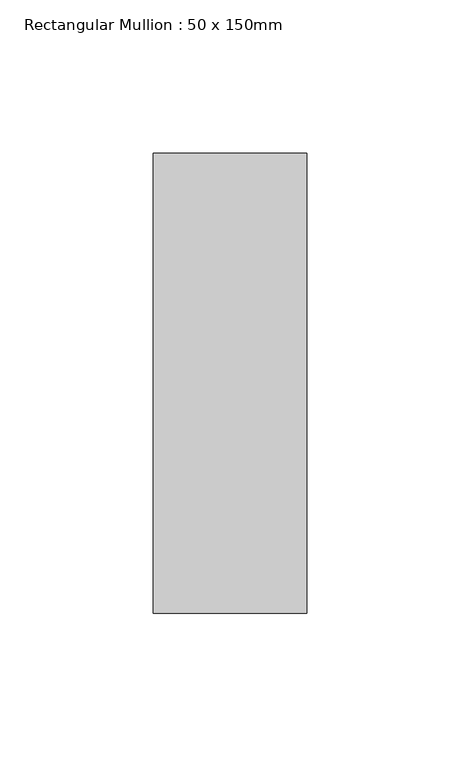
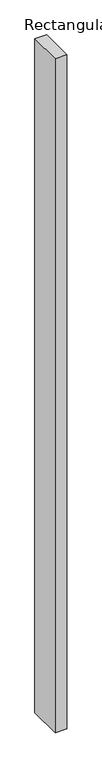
"""IFC4 building model written with IfcOpenShell, lengths in millimetres: member geometry, Rectangular Mullion : 50 x 150mm."""

from ifc_helpers import new_model, si_unit, frame, origin, place, context, project, spatial, polyline, outline, extrude, source, transform, mapped, element, save


def rectangular_mullion_50_x_150mm_2f4e9f07(model_context):
    return source(origin(), model_context, "Body", "SweptSolid", [
        extrude(outline(polyline([(25.0, 75.0), (25.0, -75.0), (-25.0, -75.0), (-25.0, 75.0), (25.0, 75.0)])), frame((0.0, 0.0, -3061.0387937), z_axis=(0.0, 0.0, 1.0), x_axis=(1.0, 0.0, 0.0)), (0.0, 0.0, 1.0), 3061.0387937),
    ])


if __name__ == "__main__":
    model = new_model("IFC4")
    model_context = context("Model", 3, world=origin())
    ifc_project = project(units=[si_unit("LENGTHUNIT", "METRE", prefix="MILLI")], contexts=[model_context])
    site = spatial("IfcSite", under=ifc_project)
    building = spatial("IfcBuilding", under=site)
    placement = place(None, origin())
    rectangular_mullion_50_x_150mm_shape = rectangular_mullion_50_x_150mm_2f4e9f07(model_context)
    element("IfcMember", 1, ObjectType="Rectangular Mullion : 50 x 150mm", at=placement, inside=building, context=model_context, shape_type="MappedRepresentation", body=[
        mapped(rectangular_mullion_50_x_150mm_shape, transform((0.0, 0.0, 0.0), x_axis=(1.0, 0.0, 0.0), y_axis=(0.0, 1.0, 0.0), z_axis=(0.0, 0.0, 1.0))),
    ])
    save(model, "model.ifc")
